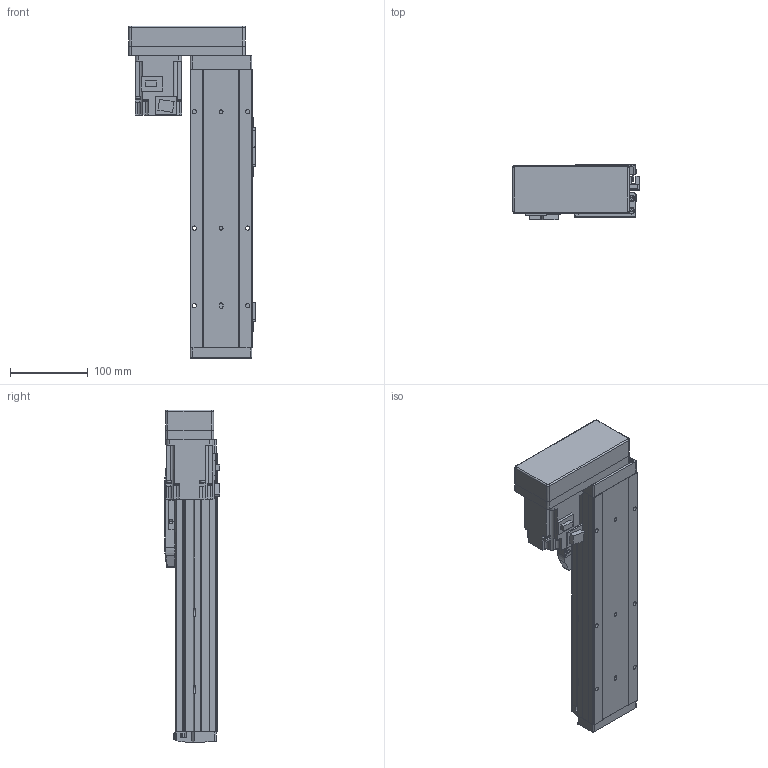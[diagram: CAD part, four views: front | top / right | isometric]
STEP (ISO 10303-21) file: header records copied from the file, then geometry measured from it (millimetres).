
FILE_DESCRIPTION (( 'STEP AP214' ), '1' );
FILE_NAME ('GSH8-200-BR-M20-1.step', '2025-01-07T06:09:57', ( '' ), ( '' ), 'SwSTEP 2.0', 'SolidWorks 2012', '' );
FILE_SCHEMA (( 'AUTOMOTIVE_DESIGN' ));
Length unit declared in the file: millimetre
Products named in the file (5): GSH8-BL-011-200-M20; GSH8-BL-008; GSH8-GY-004; GSH8-200-BR-M20-1; HG-KR23_200W_Motor
Assembly tree (4 placements, depth 2):
  GSH8-200-BR-M20-1
    GSH8-BL-011-200-M20
    GSH8-GY-004
    GSH8-BL-008
    HG-KR23_200W_Motor
Bounding box: 163 x 71.3 x 428.2 mm (x, y, z)
Volume: 1485570.1 mm3; surface area: 320065.2 mm2
Topology: 4 solids, 8 shells, 1082 faces, 2822 edges, 1813 vertices
Faces by surface type: plane 618, cylinder 368, torus 42, cone 26, bspline 24, sphere 4
Entity records: 42502 total; most frequent: CARTESIAN_POINT 9666, DIRECTION 5726, ORIENTED_EDGE 5628, EDGE_CURVE 2814, AXIS2_PLACEMENT_3D 1925, LINE 1876, VECTOR 1876, VERTEX_POINT 1809
